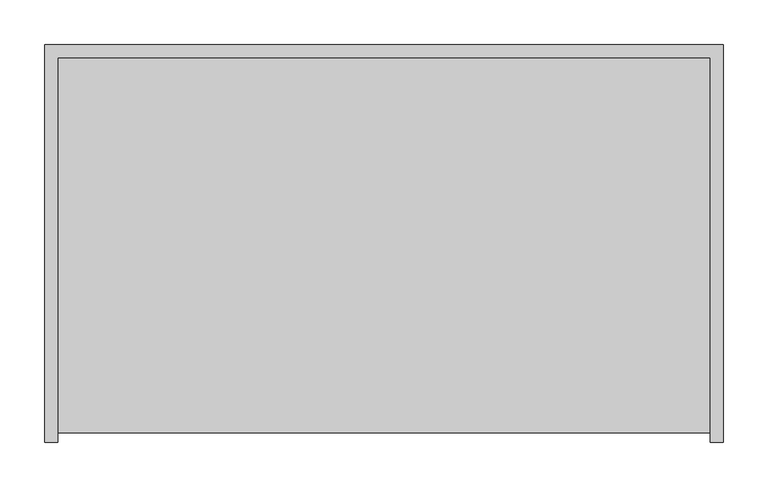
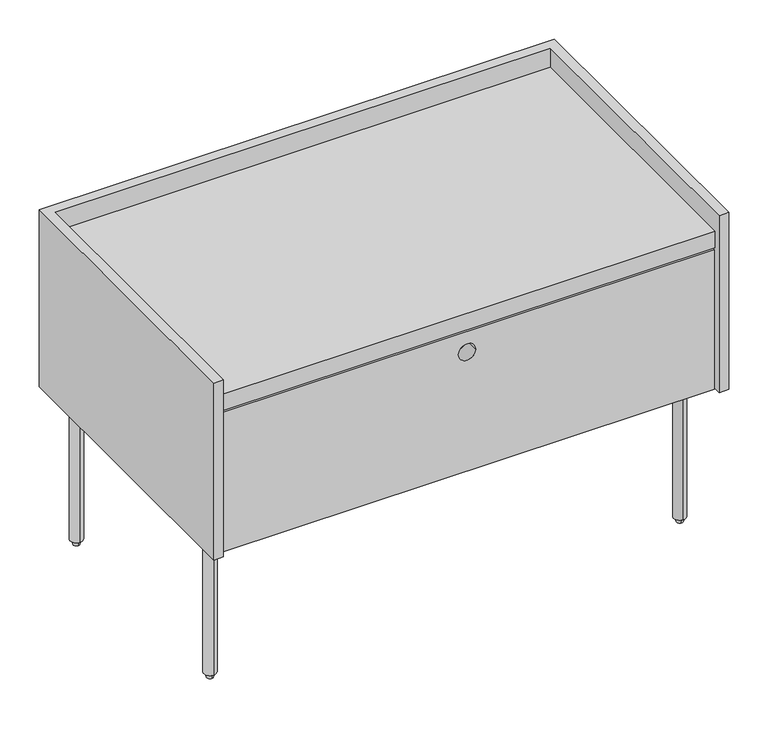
"""IFC4 building model written with IfcOpenShell, lengths in millimetres: furniture geometry, Blu Dot - Peek - Nightstand : Nightstand."""

from ifc_helpers import new_model, si_unit, point, frame, frame_2d, origin, place, context, project, spatial, polyline, circle_curve, trimmed, segment, composite_curve, outline, extrude, source, transform, mapped, element, save
from ifc_brep_helpers import plane_surface, cylinder_surface, revolved_surface, advanced_brep


def furniture_64b5cb5d(model_context):
    return source(origin(), model_context, "Body", "SolidModel", [
        advanced_brep(
        [(-345.8382109, -151.0812356, 7.9859344), (-345.8382109, -169.4133107, 7.9859344), (-345.8382109, -169.4133107, 234.0047573), (-345.8382109, -151.0812356, 234.0047573), (-345.1807145, -151.1048477, 234.0047573), (-345.1807145, -151.1048477, 210.9813262), (-336.6957855, -159.5897768, 210.9813262), (-336.6957855, -159.5897768, 234.0047573), (-345.8382109, -153.9727665, 7.9859344), (-345.8382109, -166.5217798, 7.9859344), (-345.8382109, -155.7669027, 1e-07), (-345.8382109, -164.7276436, 1e-07), (-345.8382109, -160.2472726, 1e-07), (-345.8382109, -160.2472731, 234.0047573), (-345.8382109, -151.7623441, 234.0047573), (-246.7302991, -69.6242903, 234.0047573), (-255.2152281, -61.1393613, 234.0047573), (-255.2152281, -61.1393613, 210.9813262), (-246.7302991, -69.6242903, 210.9813262)],
        [
            (0, 1, circle_curve(frame((-345.8382109, -160.2472731, 7.9859344), z_axis=(0.0, 0.0, 1.0), x_axis=(0.0, -1.0, 0.0)), 9.1660375)),
            (1, 2),
            (2, 3, circle_curve(frame((-345.8382109, -160.2472731, 234.0047573), z_axis=(0.0, 0.0, -1.0), x_axis=(0.0, -1.0, 0.0)), 9.1660375)),
            (3, 0),
            (1, 0, circle_curve(frame((-345.8382109, -160.2472731, 7.9859344), z_axis=(0.0, 0.0, 1.0), x_axis=(0.0, -1.0, 0.0)), 9.1660375)),
            (3, 4, circle_curve(frame((-345.8382109, -160.2472731, 234.0047573), z_axis=(0.0, 0.0, -1.0), x_axis=(0.0, -1.0, 0.0)), 9.1660375)),
            (4, 5),
            (5, 6, circle_curve(frame((-345.8382109, -160.2472731, 210.9813262), z_axis=(0.0, 0.0, -1.0), x_axis=(0.0, -1.0, 0.0)), 9.1660375)),
            (6, 7),
            (7, 2, circle_curve(frame((-345.8382109, -160.2472731, 234.0047573), z_axis=(0.0, 0.0, -1.0), x_axis=(0.0, -1.0, 0.0)), 9.1660375)),
            (0, 8),
            (8, 9, circle_curve(frame((-345.8382109, -160.2472731, 7.9859344), z_axis=(0.0, 0.0, 1.0), x_axis=(0.0, -1.0, 0.0)), 6.2745066)),
            (9, 1),
            (9, 8, circle_curve(frame((-345.8382109, -160.2472731, 7.9859344), z_axis=(0.0, 0.0, 1.0), x_axis=(0.0, -1.0, 0.0)), 6.2745066)),
            (8, 10),
            (10, 11, circle_curve(frame((-345.8382109, -160.2472731, 1e-07), z_axis=(0.0, 0.0, 1.0), x_axis=(0.0, -1.0, 0.0)), 4.4803704)),
            (11, 9),
            (11, 10, circle_curve(frame((-345.8382109, -160.2472731, 1e-07), z_axis=(0.0, 0.0, 1.0), x_axis=(0.0, -1.0, 0.0)), 4.4803704)),
            (10, 12),
            (12, 11),
            (2, 13),
            (13, 14),
            (14, 3),
            (7, 15),
            (15, 16),
            (16, 4),
            (17, 18),
            (18, 6),
            (5, 17),
            (18, 15),
            (17, 16),
        ],
        [
            cylinder_surface(frame((-345.8382109, -160.2472731, -68.6903203), z_axis=(0.0, 0.0, -1.0), x_axis=(0.0, -1.0, 0.0)), 9.1660375),
            plane_surface(frame((-345.8382109, -160.2472731, 7.9859344), z_axis=(0.0, 0.0, -1.0), x_axis=(0.0, -1.0, 0.0))),
            revolved_surface(polyline([(-345.8382109, -166.5217798, 7.9859344), (-345.8382109, -164.7276436, 1e-07)]), (-345.8382109, -160.2472731, -68.6903203), (0.0, 0.0, -1.0)),
            plane_surface(frame((-345.8382109, -160.2472731, 1e-07), z_axis=(0.0, 0.0, -1.0), x_axis=(0.0, -1.0, 0.0))),
            plane_surface(frame((-345.8382109, -160.2472731, 234.0047573), z_axis=(0.0, 0.0, 1.0), x_axis=(0.0, -1.0, 0.0))),
            plane_surface(frame((-349.6330056, 176.5903521, 210.9813262), z_axis=(0.0, 0.0, -1.0), x_axis=(0.7071093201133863, 0.7071042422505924, 0.0))),
            plane_surface(frame((-341.5957312, -164.4897224, 234.0047573), z_axis=(0.7071067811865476, -0.7071067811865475, 0.0), x_axis=(0.0, 0.0, -1.0))),
            plane_surface(frame((-246.7302991, -69.6242903, 234.0047573), z_axis=(0.7071067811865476, 0.7071067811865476, 0.0), x_axis=(0.0, 0.0, -1.0))),
            plane_surface(frame((-255.2152281, -61.1393613, 234.0047573), z_axis=(-0.7071067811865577, 0.7071067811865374, 0.0), x_axis=(0.0, 0.0, -1.0))),
        ],
        [
            (0, [[1, 2, 3, 4]]),
            (0, [[-2, 5, -4, 6, 7, 8, 9, 10]]),
            (1, [[-1, 11, 12, 13]]),
            (1, [[-5, -13, 14, -11]]),
            (2, [[-12, 15, 16, 17]]),
            (2, [[-14, -17, 18, -15]]),
            (3, [[-16, 19, 20]]),
            (3, [[-18, -20, -19]]),
            (4, [[-3, 21, 22, 23]]),
            (4, [[-21, -10, 24, 25, 26, -6, -23, -22]]),
            (5, [[27, 28, -8, 29]]),
            (6, [[30, -24, -9, -28]]),
            (7, [[-25, -30, -27, 31]]),
            (8, [[-31, -29, -7, -26]]),
        ],
    ),
        advanced_brep(
        [(-255.2152281, 81.2772078, 234.0047573), (-246.7302991, 89.7621368, 234.0047573), (-336.6957855, 179.7276232, 234.0047573), (-345.8382109, 189.5511571, 234.0047573), (-345.8382109, 180.3851196, 234.0047573), (-345.8382109, 171.9001905, 234.0047573), (-345.8382109, 171.219082, 234.0047573), (-345.1807145, 171.2426942, 234.0047573), (-345.8382109, 189.5511571, 7.9859344), (-345.8382109, 171.219082, 7.9859344), (-336.6957855, 179.7276232, 210.9813262), (-345.1807145, 171.2426942, 210.9813262), (-345.8382109, 186.6596262, 7.9859344), (-345.8382109, 174.110613, 7.9859344), (-345.8382109, 184.86549, 1e-07), (-345.8382109, 175.9047492, 1e-07), (-345.8382109, 180.3851201, 1e-07), (-246.7302991, 89.7621368, 210.9813262), (-255.2152281, 81.2772078, 210.9813262)],
        [
            (0, 1),
            (1, 2),
            (2, 3, circle_curve(frame((-345.8382109, 180.3851196, 234.0047573), z_axis=(0.0, 0.0, 1.0), x_axis=(0.0, -1.0, 0.0)), 9.1660375)),
            (3, 4),
            (4, 5),
            (5, 6),
            (6, 7, circle_curve(frame((-345.8382109, 180.3851196, 234.0047573), z_axis=(0.0, 0.0, 1.0), x_axis=(0.0, -1.0, 0.0)), 9.1660375)),
            (7, 0),
            (8, 9, circle_curve(frame((-345.8382109, 180.3851196, 7.9859344), z_axis=(0.0, 0.0, 1.0), x_axis=(0.0, -1.0, 0.0)), 9.1660375)),
            (9, 6),
            (6, 3, circle_curve(frame((-345.8382109, 180.3851196, 234.0047573), z_axis=(0.0, 0.0, -1.0), x_axis=(0.0, -1.0, 0.0)), 9.1660375)),
            (3, 8),
            (9, 8, circle_curve(frame((-345.8382109, 180.3851196, 7.9859344), z_axis=(0.0, 0.0, 1.0), x_axis=(0.0, -1.0, 0.0)), 9.1660375)),
            (2, 10),
            (10, 11, circle_curve(frame((-345.8382109, 180.3851196, 210.9813262), z_axis=(0.0, 0.0, -1.0), x_axis=(0.0, -1.0, 0.0)), 9.1660375)),
            (11, 7),
            (8, 12),
            (12, 13, circle_curve(frame((-345.8382109, 180.3851196, 7.9859344), z_axis=(0.0, 0.0, 1.0), x_axis=(0.0, -1.0, 0.0)), 6.2745066)),
            (13, 9),
            (13, 12, circle_curve(frame((-345.8382109, 180.3851196, 7.9859344), z_axis=(0.0, 0.0, 1.0), x_axis=(0.0, -1.0, 0.0)), 6.2745066)),
            (12, 14),
            (14, 15, circle_curve(frame((-345.8382109, 180.3851196, 1e-07), z_axis=(0.0, 0.0, 1.0), x_axis=(0.0, -1.0, 0.0)), 4.4803704)),
            (15, 13),
            (15, 14, circle_curve(frame((-345.8382109, 180.3851196, 1e-07), z_axis=(0.0, 0.0, 1.0), x_axis=(0.0, -1.0, 0.0)), 4.4803704)),
            (14, 16),
            (16, 15),
            (17, 18),
            (18, 11),
            (10, 17),
            (18, 0),
            (17, 1),
        ],
        [
            plane_surface(frame((-345.8382109, -160.2472731, 234.0047573), z_axis=(0.0, 0.0, 1.0), x_axis=(0.0, -1.0, 0.0))),
            cylinder_surface(frame((-345.8382109, 180.3851196, -68.6903203), z_axis=(0.0, 0.0, -1.0), x_axis=(0.0, -1.0, 0.0)), 9.1660375),
            plane_surface(frame((-345.8382109, 180.3851196, 7.9859344), z_axis=(0.0, 0.0, -1.0), x_axis=(0.0, -1.0, 0.0))),
            revolved_surface(polyline([(-345.8382109, 174.110613, 7.9859344), (-345.8382109, 175.9047492, 1e-07)]), (-345.8382109, 180.3851196, -68.6903203), (0.0, 0.0, -1.0)),
            plane_surface(frame((-345.8382109, 180.3851196, 1e-07), z_axis=(0.0, 0.0, -1.0), x_axis=(0.0, -1.0, 0.0))),
            plane_surface(frame((-345.8382109, 180.3851196, 234.0047573), z_axis=(0.0, 0.0, 1.0), x_axis=(0.0, -1.0, 0.0))),
            plane_surface(frame((-349.6330056, 176.5903521, 210.9813262), z_axis=(0.0, 0.0, -1.0), x_axis=(0.7071093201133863, 0.7071042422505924, 0.0))),
            plane_surface(frame((-350.0806907, 176.1426703, 234.0047573), z_axis=(-0.7071067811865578, -0.7071067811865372, 0.0), x_axis=(0.0, 0.0, -1.0))),
            plane_surface(frame((-255.2152281, 81.2772078, 234.0047573), z_axis=(0.7071067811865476, -0.7071067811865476, 0.0), x_axis=(0.0, 0.0, -1.0))),
            plane_surface(frame((-246.7302991, 89.7621368, 234.0047573), z_axis=(0.7071067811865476, 0.7071067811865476, 0.0), x_axis=(0.0, 0.0, -1.0))),
        ],
        [
            (0, [[1, 2, 3, 4, 5, 6, 7, 8]]),
            (1, [[9, 10, 11, 12]]),
            (1, [[-10, 13, -12, -3, 14, 15, 16, -7]]),
            (2, [[-9, 17, 18, 19]]),
            (2, [[-13, -19, 20, -17]]),
            (3, [[-18, 21, 22, 23]]),
            (3, [[-20, -23, 24, -21]]),
            (4, [[-22, 25, 26]]),
            (4, [[-24, -26, -25]]),
            (5, [[-11, -6, -5, -4]]),
            (6, [[27, 28, -15, 29]]),
            (7, [[30, -8, -16, -28]]),
            (8, [[-1, -30, -27, 31]]),
            (9, [[-31, -29, -14, -2]]),
        ],
    ),
        advanced_brep(
        [(246.7302991, 89.7621368, 234.0047573), (255.2152281, 81.2772078, 234.0047573), (345.1807145, 171.2426942, 234.0047573), (345.8382109, 171.219082, 234.0047573), (345.8382109, 171.9001905, 234.0047573), (345.8382109, 180.3851196, 234.0047573), (345.8382109, 189.5511571, 234.0047573), (336.6957855, 179.7276232, 234.0047573), (345.8382109, 171.219082, 7.9859344), (345.8382109, 189.5511571, 7.9859344), (345.1807145, 171.2426942, 210.9813262), (336.6957855, 179.7276232, 210.9813262), (345.8382109, 174.110613, 7.9859344), (345.8382109, 186.6596262, 7.9859344), (345.8382109, 175.9047492, 1e-07), (345.8382109, 184.86549, 1e-07), (345.8382109, 180.3851196, -4e-07), (255.2152281, 81.2772078, 210.9813262), (246.7302991, 89.7621368, 210.9813262)],
        [
            (0, 1),
            (1, 2),
            (2, 3, circle_curve(frame((345.8382109, 180.3851196, 234.0047573), z_axis=(0.0, 0.0, 1.0), x_axis=(0.0, -1.0, 0.0)), 9.1660375)),
            (3, 4),
            (4, 5),
            (5, 6),
            (6, 7, circle_curve(frame((345.8382109, 180.3851196, 234.0047573), z_axis=(0.0, 0.0, 1.0), x_axis=(0.0, -1.0, 0.0)), 9.1660375)),
            (7, 0),
            (6, 3, circle_curve(frame((345.8382109, 180.3851196, 234.0047573), z_axis=(0.0, 0.0, -1.0), x_axis=(0.0, -1.0, 0.0)), 9.1660375)),
            (3, 8),
            (8, 9, circle_curve(frame((345.8382109, 180.3851196, 7.9859344), z_axis=(0.0, 0.0, 1.0), x_axis=(0.0, -1.0, 0.0)), 9.1660375)),
            (9, 6),
            (2, 10),
            (10, 11, circle_curve(frame((345.8382109, 180.3851196, 210.9813262), z_axis=(0.0, 0.0, -1.0), x_axis=(0.0, -1.0, 0.0)), 9.1660375)),
            (11, 7),
            (9, 8, circle_curve(frame((345.8382109, 180.3851196, 7.9859344), z_axis=(0.0, 0.0, 1.0), x_axis=(0.0, -1.0, 0.0)), 9.1660375)),
            (8, 12),
            (12, 13, circle_curve(frame((345.8382109, 180.3851196, 7.9859344), z_axis=(0.0, 0.0, 1.0), x_axis=(0.0, -1.0, 0.0)), 6.2745066)),
            (13, 9),
            (13, 12, circle_curve(frame((345.8382109, 180.3851196, 7.9859344), z_axis=(0.0, 0.0, 1.0), x_axis=(0.0, -1.0, 0.0)), 6.2745066)),
            (12, 14),
            (14, 15, circle_curve(frame((345.8382109, 180.3851196, 1e-07), z_axis=(0.0, 0.0, 1.0), x_axis=(0.0, -1.0, 0.0)), 4.4803704)),
            (15, 13),
            (15, 14, circle_curve(frame((345.8382109, 180.3851196, 1e-07), z_axis=(0.0, 0.0, 1.0), x_axis=(0.0, -1.0, 0.0)), 4.4803704)),
            (14, 16),
            (16, 15),
            (17, 18),
            (18, 11),
            (10, 17),
            (18, 0),
            (17, 1),
        ],
        [
            plane_surface(frame((-345.8382109, -160.2472731, 234.0047573), z_axis=(0.0, 0.0, 1.0), x_axis=(0.0, -1.0, 0.0))),
            cylinder_surface(frame((345.8382109, 180.3851196, -68.6903203), z_axis=(0.0, 0.0, 1.0), x_axis=(0.0, -1.0, 0.0)), 9.1660375),
            plane_surface(frame((345.8382109, 180.3851196, 7.9859344), z_axis=(0.0, 0.0, -1.0), x_axis=(0.0, -1.0, 0.0))),
            revolved_surface(polyline([(345.8382109, 175.9047492, 1e-07), (345.8382109, 174.110613, 7.9859344)]), (345.8382109, 180.3851196, -68.6903203), (0.0, 0.0, 1.0)),
            plane_surface(frame((345.8382109, 180.3851196, -4e-07), z_axis=(0.0, 0.0, -1.0), x_axis=(0.0, -1.0, 0.0))),
            plane_surface(frame((345.8382109, 180.3851196, 234.0047573), z_axis=(0.0, 0.0, 1.0), x_axis=(0.0, -1.0, 0.0))),
            plane_surface(frame((-349.6330056, 176.5903521, 210.9813262), z_axis=(0.0, 0.0, -1.0), x_axis=(0.7071093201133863, 0.7071042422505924, 0.0))),
            plane_surface(frame((341.5957312, 184.6275689, 234.0047573), z_axis=(-0.7071067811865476, 0.7071067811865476, 0.0), x_axis=(0.0, 0.0, -1.0))),
            plane_surface(frame((246.7302991, 89.7621368, 234.0047573), z_axis=(-0.7071067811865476, -0.7071067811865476, 0.0), x_axis=(0.0, 0.0, -1.0))),
            plane_surface(frame((255.2152281, 81.2772078, 234.0047573), z_axis=(0.7071067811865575, -0.7071067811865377, 0.0), x_axis=(0.0, 0.0, -1.0))),
        ],
        [
            (0, [[1, 2, 3, 4, 5, 6, 7, 8]]),
            (1, [[9, 10, 11, 12]]),
            (1, [[-10, -3, 13, 14, 15, -7, -12, 16]]),
            (2, [[-11, 17, 18, 19]]),
            (2, [[-16, -19, 20, -17]]),
            (3, [[-18, 21, 22, 23]]),
            (3, [[-20, -23, 24, -21]]),
            (4, [[-22, 25, 26]]),
            (4, [[-24, -26, -25]]),
            (5, [[-9, -6, -5, -4]]),
            (6, [[27, 28, -14, 29]]),
            (7, [[30, -8, -15, -28]]),
            (8, [[-1, -30, -27, 31]]),
            (9, [[-31, -29, -13, -2]]),
        ],
    ),
        advanced_brep(
        [(255.2152281, -61.1393613, 234.0047573), (246.7302991, -69.6242903, 234.0047573), (336.6957855, -159.5897768, 234.0047573), (345.8382109, -169.4133107, 234.0047573), (345.8382109, -160.2472731, 234.0047573), (345.8382109, -151.7623441, 234.0047573), (345.8382109, -151.0812356, 234.0047573), (345.1807145, -151.1048477, 234.0047573), (345.8382109, -169.4133107, 7.9859344), (345.8382109, -151.0812356, 7.9859344), (336.6957855, -159.5897768, 210.9813262), (345.1807145, -151.1048477, 210.9813262), (345.8382109, -166.5217798, 7.9859344), (345.8382109, -153.9727665, 7.9859344), (345.8382109, -164.7276436, 1e-07), (345.8382109, -155.7669027, 1e-07), (345.8382109, -160.2472731, -4e-07), (246.7302991, -69.6242903, 210.9813262), (255.2152281, -61.1393613, 210.9813262)],
        [
            (0, 1),
            (1, 2),
            (2, 3, circle_curve(frame((345.8382109, -160.2472731, 234.0047573), z_axis=(0.0, 0.0, 1.0), x_axis=(0.0, -1.0, 0.0)), 9.1660375)),
            (3, 4),
            (4, 5),
            (5, 6),
            (6, 7, circle_curve(frame((345.8382109, -160.2472731, 234.0047573), z_axis=(0.0, 0.0, 1.0), x_axis=(0.0, -1.0, 0.0)), 9.1660375)),
            (7, 0),
            (6, 3, circle_curve(frame((345.8382109, -160.2472731, 234.0047573), z_axis=(0.0, 0.0, -1.0), x_axis=(0.0, -1.0, 0.0)), 9.1660375)),
            (3, 8),
            (8, 9, circle_curve(frame((345.8382109, -160.2472731, 7.9859344), z_axis=(0.0, 0.0, 1.0), x_axis=(0.0, -1.0, 0.0)), 9.1660375)),
            (9, 6),
            (2, 10),
            (10, 11, circle_curve(frame((345.8382109, -160.2472731, 210.9813262), z_axis=(0.0, 0.0, -1.0), x_axis=(0.0, -1.0, 0.0)), 9.1660375)),
            (11, 7),
            (9, 8, circle_curve(frame((345.8382109, -160.2472731, 7.9859344), z_axis=(0.0, 0.0, 1.0), x_axis=(0.0, -1.0, 0.0)), 9.1660375)),
            (8, 12),
            (12, 13, circle_curve(frame((345.8382109, -160.2472731, 7.9859344), z_axis=(0.0, 0.0, 1.0), x_axis=(0.0, -1.0, 0.0)), 6.2745066)),
            (13, 9),
            (13, 12, circle_curve(frame((345.8382109, -160.2472731, 7.9859344), z_axis=(0.0, 0.0, 1.0), x_axis=(0.0, -1.0, 0.0)), 6.2745066)),
            (12, 14),
            (14, 15, circle_curve(frame((345.8382109, -160.2472731, 1e-07), z_axis=(0.0, 0.0, 1.0), x_axis=(0.0, -1.0, 0.0)), 4.4803704)),
            (15, 13),
            (15, 14, circle_curve(frame((345.8382109, -160.2472731, 1e-07), z_axis=(0.0, 0.0, 1.0), x_axis=(0.0, -1.0, 0.0)), 4.4803704)),
            (14, 16),
            (16, 15),
            (17, 18),
            (18, 11),
            (10, 17),
            (18, 0),
            (17, 1),
        ],
        [
            plane_surface(frame((-345.8382109, -160.2472731, 234.0047573), z_axis=(0.0, 0.0, 1.0), x_axis=(0.0, -1.0, 0.0))),
            cylinder_surface(frame((345.8382109, -160.2472731, -68.6903203), z_axis=(0.0, 0.0, 1.0), x_axis=(0.0, -1.0, 0.0)), 9.1660375),
            plane_surface(frame((345.8382109, -160.2472731, 7.9859344), z_axis=(0.0, 0.0, -1.0), x_axis=(0.0, -1.0, 0.0))),
            revolved_surface(polyline([(345.8382109, -164.7276436, 1e-07), (345.8382109, -166.5217798, 7.9859344)]), (345.8382109, -160.2472731, -68.6903203), (0.0, 0.0, 1.0)),
            plane_surface(frame((345.8382109, -160.2472731, -4e-07), z_axis=(0.0, 0.0, -1.0), x_axis=(0.0, -1.0, 0.0))),
            plane_surface(frame((345.8382109, -160.2472731, 234.0047573), z_axis=(0.0, 0.0, 1.0), x_axis=(0.0, -1.0, 0.0))),
            plane_surface(frame((-349.6330056, 176.5903521, 210.9813262), z_axis=(0.0, 0.0, -1.0), x_axis=(0.7071093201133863, 0.7071042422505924, 0.0))),
            plane_surface(frame((350.0806907, -156.0048239, 234.0047573), z_axis=(0.7071067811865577, 0.7071067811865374, 0.0), x_axis=(0.0, 0.0, -1.0))),
            plane_surface(frame((255.2152281, -61.1393613, 234.0047573), z_axis=(-0.7071067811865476, 0.7071067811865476, 0.0), x_axis=(0.0, 0.0, -1.0))),
            plane_surface(frame((246.7302991, -69.6242903, 234.0047573), z_axis=(-0.7071067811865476, -0.7071067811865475, 0.0), x_axis=(0.0, 0.0, -1.0))),
        ],
        [
            (0, [[1, 2, 3, 4, 5, 6, 7, 8]]),
            (1, [[9, 10, 11, 12]]),
            (1, [[-10, -3, 13, 14, 15, -7, -12, 16]]),
            (2, [[-11, 17, 18, 19]]),
            (2, [[-16, -19, 20, -17]]),
            (3, [[-18, 21, 22, 23]]),
            (3, [[-20, -23, 24, -21]]),
            (4, [[-22, 25, 26]]),
            (4, [[-24, -26, -25]]),
            (5, [[-9, -6, -5, -4]]),
            (6, [[27, 28, -14, 29]]),
            (7, [[30, -8, -15, -28]]),
            (8, [[-1, -30, -27, 31]]),
            (9, [[-31, -29, -13, -2]]),
        ],
    ),
        extrude(outline(polyline([(450.4904168, 363.4571573), (450.4904168, -363.4571573), (234.0047573, -363.4571573), (234.0047573, 363.4571573), (450.4904168, 363.4571573)]), holes=[composite_curve([segment(trimmed(circle_curve(frame_2d((418.9821578, -0.2160377)), 12.7), [point((418.9821578, -12.9160377))], [point((418.9821578, 12.4839623))], True, "CARTESIAN"), True, "CONTINUOUS"), segment(trimmed(circle_curve(frame_2d((418.9821578, -0.2160377)), 12.7), [point((418.9821578, 12.4839623))], [point((418.9821578, -12.9160377))], True, "CARTESIAN"), True, "CONTINUOUS")], self_intersect=False)]), frame((0.0, -217.2165924, 0.0), z_axis=(0.0, 1.0, 0.0), x_axis=(0.0, 0.0, 1.0)), (0.0, 0.0, 1.0), 24.1920097),
        extrude(outline(polyline([(364.8499598, 202.8108966), (364.8499598, -193.0245826), (-364.8499598, -193.0245826), (-364.8499598, 202.8108966), (364.8499598, 202.8108966)])), frame((0.0, 0.0, 234.0047573), z_axis=(0.0, 0.0, 1.0), x_axis=(1.0, 0.0, 0.0)), (0.0, 0.0, 1.0), 28.2855555),
        extrude(outline(polyline([(364.8499598, 202.8108966), (364.8499598, -217.2165924), (-364.8499598, -217.2165924), (-364.8499598, 202.8108966), (364.8499598, 202.8108966)])), frame((0.0, 0.0, 453.4495022), z_axis=(0.0, 0.0, 1.0), x_axis=(1.0, 0.0, 0.0)), (0.0, 0.0, 1.0), 25.9678554),
        extrude(outline(polyline([(-379.23542, -227.5353486), (-379.23542, 217.2165924), (379.23542, 217.2165924), (379.23542, -227.5353486), (364.8499598, -227.5353486), (364.8499598, 202.8108966), (-364.8499598, 202.8108966), (-364.8499598, -227.5353486), (-379.23542, -227.5353486)])), frame((0.0, 0.0, 234.0047573), z_axis=(0.0, 0.0, 1.0), x_axis=(1.0, 0.0, 0.0)), (0.0, 0.0, 1.0), 275.4929953),
    ])


if __name__ == "__main__":
    model = new_model("IFC4")
    model_context = context("Model", 3, world=origin())
    ifc_project = project(units=[si_unit("LENGTHUNIT", "METRE", prefix="MILLI")], contexts=[model_context])
    site = spatial("IfcSite", under=ifc_project)
    building = spatial("IfcBuilding", under=site)
    placement = place(None, origin())
    furniture_shape = furniture_64b5cb5d(model_context)
    element("IfcFurniture", 1, ObjectType="Blu Dot - Peek - Nightstand : Nightstand", at=placement, inside=building, context=model_context, shape_type="MappedRepresentation", body=[
        mapped(furniture_shape, transform((0.0, 0.0, 0.0), x_axis=(1.0, 0.0, 0.0), y_axis=(0.0, 1.0, 0.0), z_axis=(0.0, 0.0, 1.0))),
    ])
    save(model, "model.ifc")
